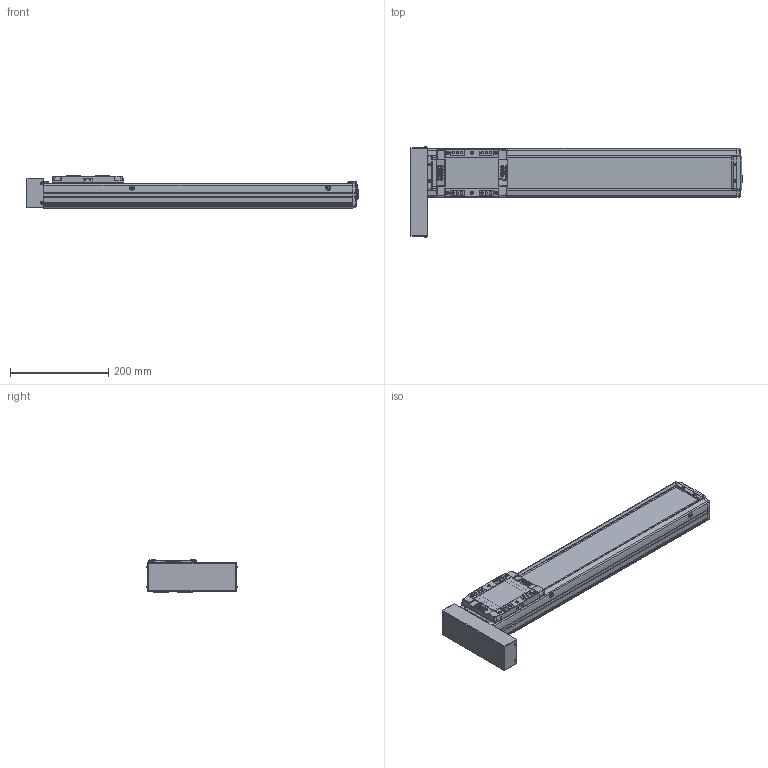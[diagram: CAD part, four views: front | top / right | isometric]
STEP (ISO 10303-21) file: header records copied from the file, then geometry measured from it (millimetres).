
FILE_DESCRIPTION(('STEP AP214'),'1');
FILE_NAME('Z:/Web/3D/SAN100/SAN100 양산용 (STEP)/SAN100ㅁㅁ-450PR.stp','2013-04-26T00:37:04',(' '),(' '),'Spatial InterOp 3D',' ',' ');
FILE_SCHEMA(('automotive_design'));
Length unit declared in the file: millimetre
Products named in the file (31): BTCV-SAN65; BHCS M3 X 6L; SUS COVER; SFX-SAN100; RRCV-SAN100; 스크루 : Round - M4.0 x 10.0; M3.0 x 6.0; 스크루 : Round - M3.0 x 6.0; FRBL-SAN100; SLBL-SAN100; SLCV-SAN100; 스크루 : Countersunk - M3.0 x 6.0; BASE; 스크루 : Round - M5.0 x 6.0
Bounding box: 676.5 x 184.13 x 66 mm (x, y, z)
Volume: 2157401.2 mm3; surface area: 492096 mm2
Topology: 31 solids, 32 shells, 1876 faces, 4896 edges, 3149 vertices
Faces by surface type: plane 929, cylinder 703, cone 166, sphere 44, torus 18, bspline 16
Entity records: 73962 total; most frequent: CARTESIAN_POINT 11194, DIRECTION 10315, ORIENTED_EDGE 9620, EDGE_CURVE 4810, AXIS2_PLACEMENT_3D 3699, VERTEX_POINT 3149, LINE 2917, VECTOR 2917
